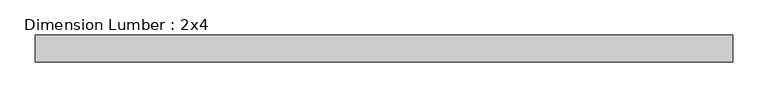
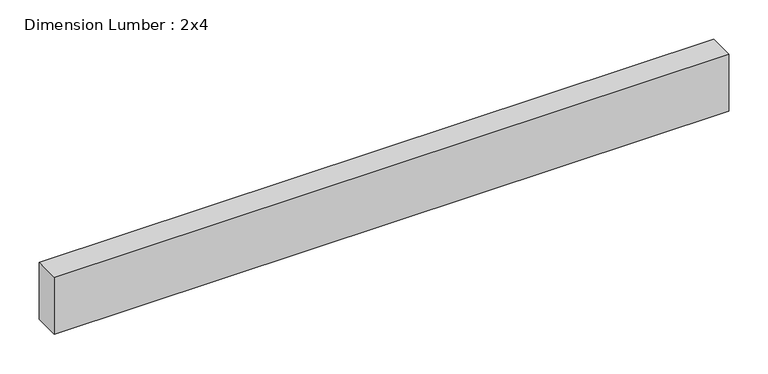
"""IFC4 building model written with IfcOpenShell, lengths in millimetres: beam geometry, Dimension Lumber : 2x4."""

from ifc_helpers import new_model, si_unit, frame, origin, place, context, project, spatial, polyline, outline, extrude, source, transform, mapped, element, save


def dimension_lumber_2x4_a540ea83(model_context):
    return source(origin(), model_context, "Body", "SweptSolid", [
        extrude(outline(polyline([(495.3, 19.05), (495.3, -19.05), (-495.3, -19.05), (-495.3, 19.05), (495.3, 19.05)])), frame((0.0, 0.0, -44.45), z_axis=(0.0, 0.0, 1.0), x_axis=(1.0, 0.0, 0.0)), (0.0, 0.0, 1.0), 88.9),
    ])


if __name__ == "__main__":
    model = new_model("IFC4")
    model_context = context("Model", 3, world=origin())
    ifc_project = project(units=[si_unit("LENGTHUNIT", "METRE", prefix="MILLI")], contexts=[model_context])
    site = spatial("IfcSite", under=ifc_project)
    building = spatial("IfcBuilding", under=site)
    placement = place(None, origin())
    dimension_lumber_2x4_shape = dimension_lumber_2x4_a540ea83(model_context)
    element("IfcBeam", 1, ObjectType="Dimension Lumber : 2x4", at=placement, inside=building, context=model_context, shape_type="MappedRepresentation", body=[
        mapped(dimension_lumber_2x4_shape, transform((0.0, 0.0, 0.0), x_axis=(1.0, 0.0, 0.0), y_axis=(0.0, 1.0, 0.0), z_axis=(0.0, 0.0, 1.0))),
    ])
    save(model, "model.ifc")
